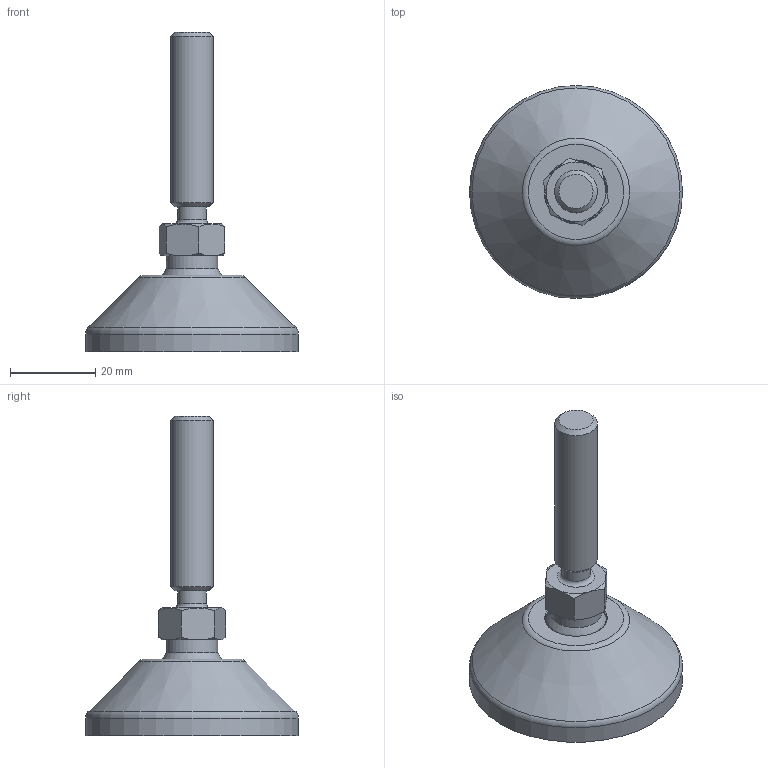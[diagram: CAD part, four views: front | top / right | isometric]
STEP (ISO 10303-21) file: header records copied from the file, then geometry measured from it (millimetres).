
FILE_DESCRIPTION(('STEP AP203'), '1');
FILE_NAME('栖闉罻', '', ('UNSPECIFIED'), ('UNSPECIFIED'), 'C3D Converter', 'C3D Toolkit', '');
FILE_SCHEMA(('CONFIG_CONTROL_DESIGN'));
Length unit declared in the file: millimetre
Products named in the file (3): A00015.1050; A00020.110045
Assembly tree (2 placements, depth 2):
  (unnamed)
    A00015.1050
    A00020.110045
Bounding box: 50 x 50 x 75 mm (x, y, z)
Volume: 21896 mm3; surface area: 10409.9 mm2
Topology: 2 solids, 2 shells, 182 faces, 482 edges, 322 vertices
Faces by surface type: plane 85, cylinder 49, torus 30, cone 16, sphere 2
Full cylindrical faces by diameter (mm): 4 x8, 6.8 x1, 10 x1, 12 x1, 14.3 x1, 15 x2, 15.5 x1, 39 x1, 50 x1
Entity records: 9012 total; most frequent: CARTESIAN_POINT 2997, DIRECTION 942, ORIENTED_EDGE 898, EDGE_CURVE 449, AXIS2_PLACEMENT_3D 396, VERTEX_POINT 320, EDGE_LOOP 229, CIRCLE 212
